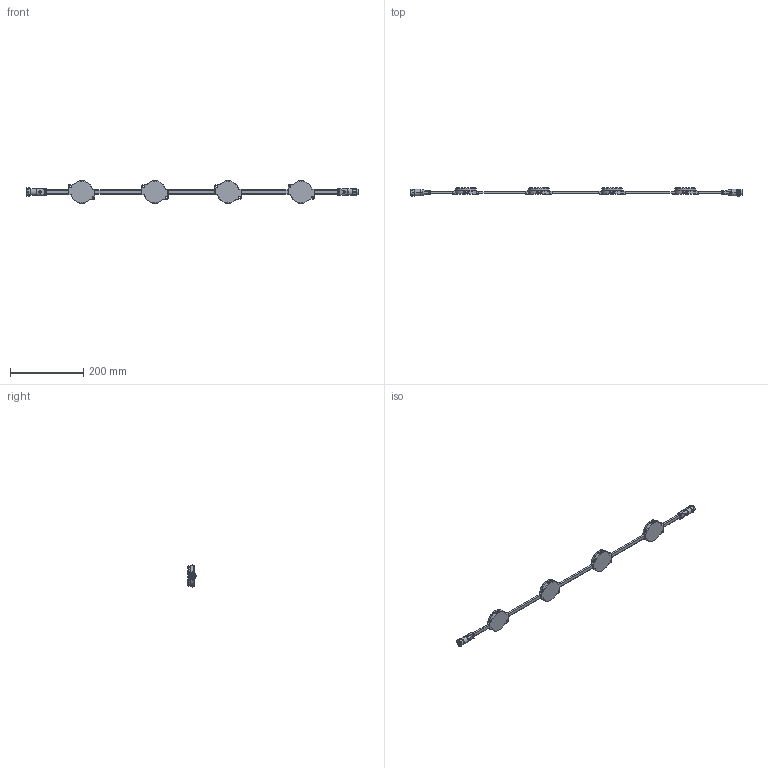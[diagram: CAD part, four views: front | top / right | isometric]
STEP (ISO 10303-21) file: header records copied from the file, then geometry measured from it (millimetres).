
FILE_DESCRIPTION (( 'STEP AP214' ), '1' );
FILE_NAME ('DiGi Module E12S -3pin.STEP', '2025-08-19T09:09:17', ( '' ), ( '' ), 'SwSTEP 2.0', 'SolidWorks 2025', '' );
FILE_SCHEMA (( 'AUTOMOTIVE_DESIGN' ));
Length unit declared in the file: millimetre
Products named in the file (6): DiGi Module E12S - Cover; DiGi Module E12S -3pin; M16 3p Flat mold - Female; M16 3p Flat mold - Male; Part31^DiGi Module E12S; DiGi Module E12S - Body
Assembly tree (11 placements, depth 2):
  DiGi Module E12S -3pin
    DiGi Module E12S - Body  x4
    DiGi Module E12S - Cover  x4
    M16 3p Flat mold - Male
    M16 3p Flat mold - Female
    Part31^DiGi Module E12S
Bounding box: 907.71 x 22.14 x 61.6 mm (x, y, z)
Volume: 197899.6 mm3; surface area: 98913 mm2
Topology: 55 solids, 55 shells, 1735 faces, 4103 edges, 2555 vertices
Faces by surface type: plane 630, cylinder 507, bspline 324, cone 212, torus 46, sphere 16
Full cylindrical faces by diameter (mm): 1.6 x3, 10.9 x1, 11.8 x1, 14.25 x1, 14.8 x1, 15.2 x1, 49.3 x4, 53.35 x8
Entity records: 66808 total; most frequent: CARTESIAN_POINT 37067, ORIENTED_EDGE 4994, DIRECTION 3814, EDGE_CURVE 2497, VERTEX_POINT 1543, AXIS2_PLACEMENT_3D 1452, EDGE_LOOP 1180, FACE_OUTER_BOUND 1098
